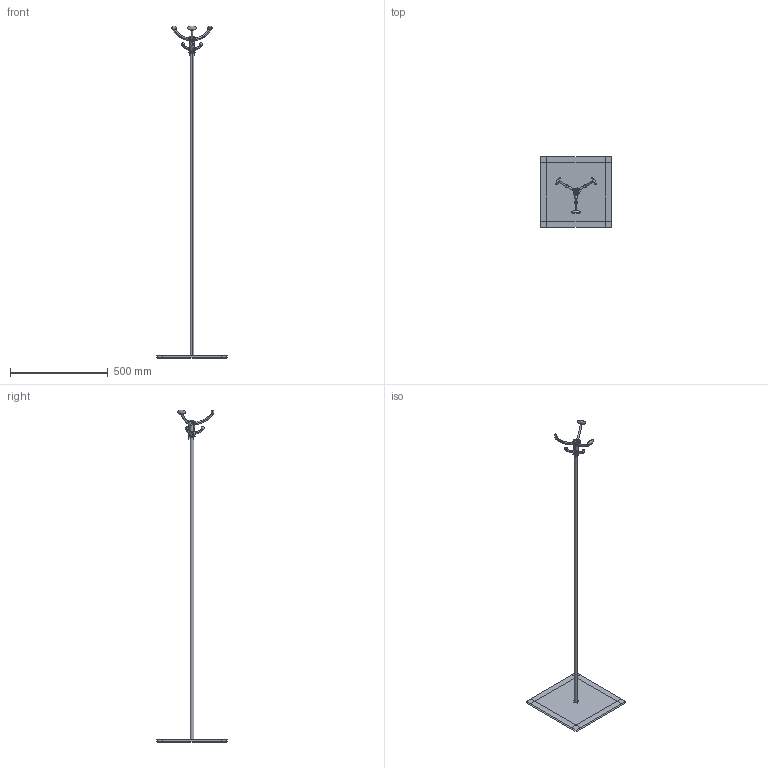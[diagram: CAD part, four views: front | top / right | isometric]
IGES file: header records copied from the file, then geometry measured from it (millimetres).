
Global section: file name: C:\Users\utente\Desktop\3d sito\HUMPHREY BASIC\HUMPHREY BASIC.igs; native system: Rhinoceros ( Mar  9 2011 ); preprocessor: Trout Lake IGES 012 Mar  9 2011; date: 170523.140656; units: millimetre
Bounding box: 360 x 360 x 1698.19 mm (x, y, z)
Surface area: 499891.1 mm2 (no closed solid volume)
Topology: 0 solids, 0 shells, 182 faces, 746 edges, 747 vertices
Faces by surface type: bspline 182
